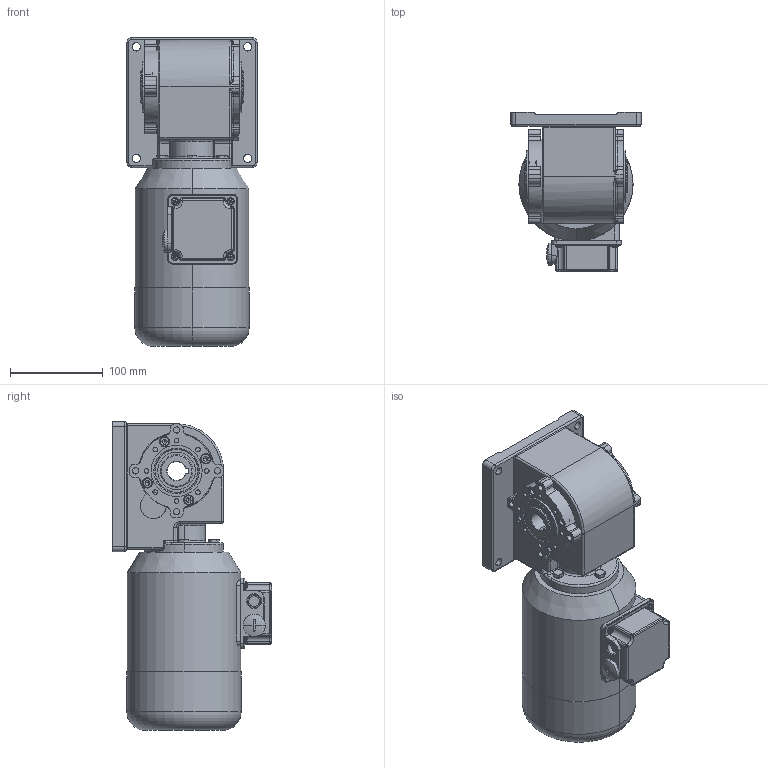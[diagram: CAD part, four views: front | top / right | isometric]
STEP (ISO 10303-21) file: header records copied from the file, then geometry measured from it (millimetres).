
FILE_DESCRIPTION (( 'STEP AP214' ), '1' );
FILE_NAME ('SN13H_120W_250W_Drehstrom-Motor_A.STEP', '2022-03-15T15:34:47', ( '' ), ( '' ), 'SwSTEP 2.0', 'SolidWorks 2019', '' );
FILE_SCHEMA (( 'AUTOMOTIVE_DESIGN' ));
Length unit declared in the file: millimetre
Products named in the file (13): 13-G-004_3D-Export; 03-M-268 I 250W_2800Upm; 13H-W-003_3D-Export; socket set screw flat point_iso_ISO 4026 - M6 x 30-C; hex screw gradeab_iso_ISO 4017 - M6 x 20-C; K_28x9.0; 13FH-F-001_3D-Export; NBR_WDR_30x47x7; 13H-D-001_3D_Export; socket head cap screw_iso_ISO 4762 M6 x 16 - 16C; SN13H_3D_Export; Kupferscheibe Ø6x10x1 DIN7603 A; SN13H_120W_250W_Drehstrom-Motor_A
Assembly tree (27 placements, depth 3):
  SN13H_120W_250W_Drehstrom-Motor_A
    SN13H_3D_Export
      13-G-004_3D-Export
      13H-D-001_3D_Export
      13FH-F-001_3D-Export
      K_28x9.0
      13H-W-003_3D-Export
      NBR_WDR_30x47x7  x2
      Kupferscheibe Ø6x10x1 DIN7603 A  x4
      hex screw gradeab_iso_ISO 4017 - M6 x 20-C  x3
      socket set screw flat point_iso_ISO 4026 - M6 x 30-C
      socket head cap screw_iso_ISO 4762 M6 x 16 - 16C  x10
    03-M-268 I 250W_2800Upm
Bounding box: 140 x 171.2 x 332.5 mm (x, y, z)
Volume: 3567940.6 mm3; surface area: 323922.4 mm2
Topology: 27 solids, 27 shells, 1331 faces, 3200 edges, 1924 vertices
Faces by surface type: cylinder 470, plane 377, cone 216, torus 208, bspline 31, sphere 29
Entity records: 33151 total; most frequent: CARTESIAN_POINT 7835, DIRECTION 5479, ORIENTED_EDGE 4792, EDGE_CURVE 2396, AXIS2_PLACEMENT_3D 2314, VERTEX_POINT 1499, CIRCLE 1332, EDGE_LOOP 1111
